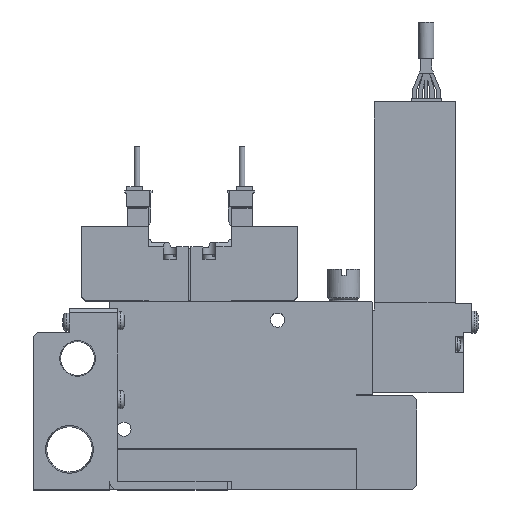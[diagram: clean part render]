
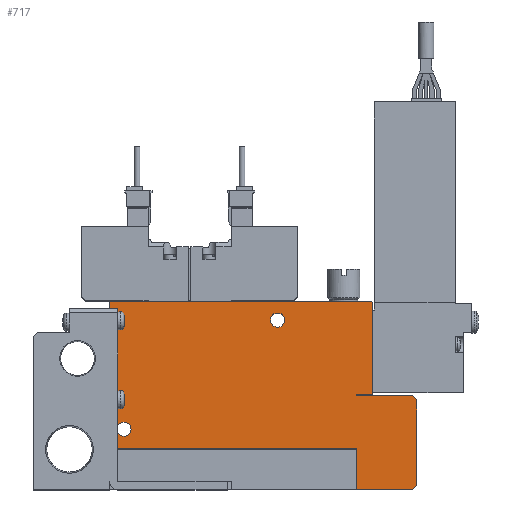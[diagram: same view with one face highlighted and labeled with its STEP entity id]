
A CAD part, top view. The second image highlights one B-rep face of the part: STEP entity #717.
In plain terms, the highlighted planar face has unit normal (0, 0, 1).
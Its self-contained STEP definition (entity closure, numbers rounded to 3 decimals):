
#717=ADVANCED_FACE('',(#1668,#1669,#1670),#1671,.F.);
#1668=FACE_OUTER_BOUND('',#2902,.T.);
#1669=FACE_BOUND('',#2903,.T.);
#1670=FACE_BOUND('',#2904,.T.);
#1671=PLANE('',#2905);
#2902=EDGE_LOOP('',(#6270,#6271,#6272,#6273,#6274,#6275,#6276,#6277,#6278,#6279,#6280,#6281,#6282,#6283));
#2903=EDGE_LOOP('',(#6284));
#2904=EDGE_LOOP('',(#6285));
#2905=AXIS2_PLACEMENT_3D('',#6286,#6287,#6288);
#6270=ORIENTED_EDGE('',*,*,#8544,.T.);
#6271=ORIENTED_EDGE('',*,*,#8609,.F.);
#6272=ORIENTED_EDGE('',*,*,#8610,.F.);
#6273=ORIENTED_EDGE('',*,*,#8611,.T.);
#6274=ORIENTED_EDGE('',*,*,#8568,.T.);
#6275=ORIENTED_EDGE('',*,*,#8612,.T.);
#6276=ORIENTED_EDGE('',*,*,#8613,.T.);
#6277=ORIENTED_EDGE('',*,*,#8614,.T.);
#6278=ORIENTED_EDGE('',*,*,#8607,.T.);
#6279=ORIENTED_EDGE('',*,*,#8585,.T.);
#6280=ORIENTED_EDGE('',*,*,#8598,.T.);
#6281=ORIENTED_EDGE('',*,*,#8615,.T.);
#6282=ORIENTED_EDGE('',*,*,#8616,.T.);
#6283=ORIENTED_EDGE('',*,*,#8564,.T.);
#6284=ORIENTED_EDGE('',*,*,#8617,.F.);
#6285=ORIENTED_EDGE('',*,*,#8588,.F.);
#6286=CARTESIAN_POINT('',(0.0,0.0,5.0));
#6287=DIRECTION('',(0.0,0.0,-1.0));
#6288=DIRECTION('',(0.0,-1.0,0.0));
#8544=EDGE_CURVE('',#10478,#10476,#10479,.T.);
#8564=EDGE_CURVE('',#10514,#10478,#10515,.T.);
#8568=EDGE_CURVE('',#10522,#10520,#10523,.T.);
#8585=EDGE_CURVE('',#10554,#10552,#10555,.T.);
#8588=EDGE_CURVE('',#10559,#10559,#10560,.T.);
#8598=EDGE_CURVE('',#10552,#10574,#10576,.T.);
#8607=EDGE_CURVE('',#10591,#10554,#10592,.T.);
#8609=EDGE_CURVE('',#10594,#10476,#10595,.T.);
#8610=EDGE_CURVE('',#10596,#10594,#10597,.T.);
#8611=EDGE_CURVE('',#10596,#10522,#10598,.T.);
#8612=EDGE_CURVE('',#10520,#10599,#10600,.T.);
#8613=EDGE_CURVE('',#10599,#10601,#10602,.T.);
#8614=EDGE_CURVE('',#10601,#10591,#10603,.T.);
#8615=EDGE_CURVE('',#10574,#10604,#10605,.T.);
#8616=EDGE_CURVE('',#10604,#10514,#10606,.T.);
#8617=EDGE_CURVE('',#10607,#10607,#10608,.T.);
#10476=VERTEX_POINT('',#13638);
#10478=VERTEX_POINT('',#13641);
#10479=LINE('',#13642,#13643);
#10514=VERTEX_POINT('',#13696);
#10515=LINE('',#13697,#13698);
#10520=VERTEX_POINT('',#13705);
#10522=VERTEX_POINT('',#13708);
#10523=LINE('',#13709,#13710);
#10552=VERTEX_POINT('',#13748);
#10554=VERTEX_POINT('',#13751);
#10555=LINE('',#13752,#13753);
#10559=VERTEX_POINT('',#13758);
#10560=CIRCLE('',#13759,1.75);
#10574=VERTEX_POINT('',#13781);
#10576=LINE('',#13784,#13785);
#10591=VERTEX_POINT('',#13806);
#10592=LINE('',#13807,#13808);
#10594=VERTEX_POINT('',#13811);
#10595=LINE('',#13812,#13813);
#10596=VERTEX_POINT('',#13814);
#10597=LINE('',#13815,#13816);
#10598=LINE('',#13817,#13818);
#10599=VERTEX_POINT('',#13819);
#10600=LINE('',#13820,#13821);
#10601=VERTEX_POINT('',#13822);
#10602=LINE('',#13823,#13824);
#10603=LINE('',#13825,#13826);
#10604=VERTEX_POINT('',#13827);
#10605=LINE('',#13828,#13829);
#10606=LINE('',#13830,#13831);
#10607=VERTEX_POINT('',#13832);
#10608=CIRCLE('',#13833,1.75);
#13638=CARTESIAN_POINT('',(0.0,10.1,5.0));
#13641=CARTESIAN_POINT('',(0.0,46.4,5.0));
#13642=CARTESIAN_POINT('',(0.0,46.4,5.0));
#13643=VECTOR('',#16424,1.0);
#13696=CARTESIAN_POINT('',(0.2,46.6,5.0));
#13697=CARTESIAN_POINT('',(0.2,46.6,5.0));
#13698=VECTOR('',#16446,1.0);
#13705=CARTESIAN_POINT('',(76.0,1.0,5.0));
#13708=CARTESIAN_POINT('',(75.0,0.0,5.0));
#13709=CARTESIAN_POINT('',(75.0,0.0,5.0));
#13710=VECTOR('',#16450,1.0);
#13748=CARTESIAN_POINT('',(65.0,23.5,5.0));
#13751=CARTESIAN_POINT('',(61.0,23.5,5.0));
#13752=CARTESIAN_POINT('',(61.0,23.5,5.0));
#13753=VECTOR('',#16479,1.0);
#13758=CARTESIAN_POINT('',(43.25,42.0,5.0));
#13759=AXIS2_PLACEMENT_3D('',#16484,#16485,#16486);
#13781=CARTESIAN_POINT('',(65.0,46.4,5.0));
#13784=CARTESIAN_POINT('',(65.0,23.5,5.0));
#13785=VECTOR('',#16496,1.0);
#13806=CARTESIAN_POINT('',(61.0,23.25,5.0));
#13807=CARTESIAN_POINT('',(61.0,23.25,5.0));
#13808=VECTOR('',#16509,1.0);
#13811=CARTESIAN_POINT('',(61.1,10.1,5.0));
#13812=CARTESIAN_POINT('',(61.1,10.1,5.0));
#13813=VECTOR('',#16511,1.0);
#13814=CARTESIAN_POINT('',(61.1,0.0,5.0));
#13815=CARTESIAN_POINT('',(61.1,0.0,5.0));
#13816=VECTOR('',#16512,1.0);
#13817=CARTESIAN_POINT('',(0.0,0.0,5.0));
#13818=VECTOR('',#16513,1.0);
#13819=CARTESIAN_POINT('',(76.0,22.25,5.0));
#13820=CARTESIAN_POINT('',(76.0,1.0,5.0));
#13821=VECTOR('',#16514,1.0);
#13822=CARTESIAN_POINT('',(75.0,23.25,5.0));
#13823=CARTESIAN_POINT('',(76.0,22.25,5.0));
#13824=VECTOR('',#16515,1.0);
#13825=CARTESIAN_POINT('',(75.0,23.25,5.0));
#13826=VECTOR('',#16516,1.0);
#13827=CARTESIAN_POINT('',(64.8,46.6,5.0));
#13828=CARTESIAN_POINT('',(65.0,46.4,5.0));
#13829=VECTOR('',#16517,1.0);
#13830=CARTESIAN_POINT('',(64.8,46.6,5.0));
#13831=VECTOR('',#16518,1.0);
#13832=CARTESIAN_POINT('',(5.25,15.0,5.0));
#13833=AXIS2_PLACEMENT_3D('',#16519,#16520,#16521);
#16424=DIRECTION('',(0.0,-1.0,0.0));
#16446=DIRECTION('',(-0.707,-0.707,0.0));
#16450=DIRECTION('',(0.707,0.707,0.0));
#16479=DIRECTION('',(1.0,0.,0.0));
#16484=CARTESIAN_POINT('',(41.5,42.0,5.0));
#16485=DIRECTION('',(0.0,0.0,1.0));
#16486=DIRECTION('',(1.0,0.0,0.0));
#16496=DIRECTION('',(0.0,1.0,0.0));
#16509=DIRECTION('',(0.0,1.0,0.0));
#16511=DIRECTION('',(-1.0,0.0,0.0));
#16512=DIRECTION('',(0.0,1.0,0.0));
#16513=DIRECTION('',(1.0,0.0,0.0));
#16514=DIRECTION('',(0.0,1.0,0.0));
#16515=DIRECTION('',(-0.707,0.707,0.0));
#16516=DIRECTION('',(-1.0,0.0,0.0));
#16517=DIRECTION('',(-0.707,0.707,0.0));
#16518=DIRECTION('',(-1.0,0.0,0.0));
#16519=CARTESIAN_POINT('',(3.5,15.0,5.0));
#16520=DIRECTION('',(0.0,0.0,1.0));
#16521=DIRECTION('',(1.0,0.0,0.0));
